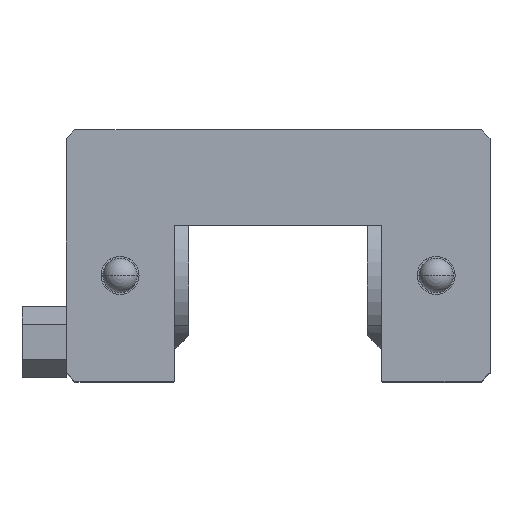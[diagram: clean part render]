
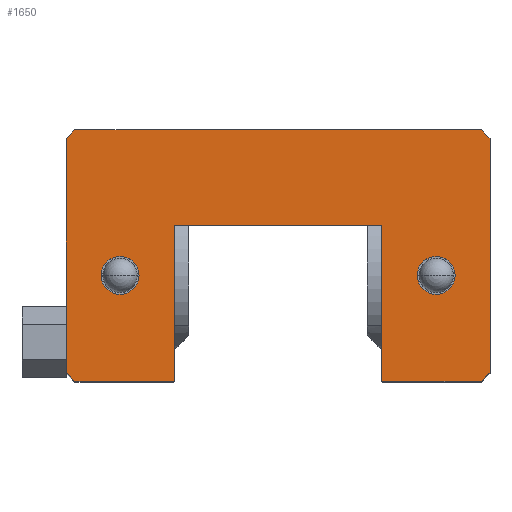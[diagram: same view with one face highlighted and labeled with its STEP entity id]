
A CAD part, top view. The second image highlights one B-rep face of the part: STEP entity #1650.
In plain terms, the highlighted planar face has unit normal (0, 0, 1).
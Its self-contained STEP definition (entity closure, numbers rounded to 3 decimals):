
#1624 = EDGE_CURVE( '', #2166, #3004, #4501, .T. );
#1634 = EDGE_CURVE( '', #2552, #3982, #4512, .T. );
#1650 = ADVANCED_FACE( '', ( #4531, #4532, #4533 ), #4534, .T. );
#1668 = EDGE_CURVE( '', #1718, #1734, #4557, .T. );
#1696 = VERTEX_POINT( '', #4588 );
#1718 = VERTEX_POINT( '', #4613 );
#1734 = VERTEX_POINT( '', #4631 );
#1812 = EDGE_CURVE( '', #2592, #3024, #4713, .T. );
#1874 = EDGE_CURVE( '', #3982, #3174, #4778, .T. );
#2140 = EDGE_CURVE( '', #2746, #1696, #5081, .T. );
#2166 = VERTEX_POINT( '', #5109 );
#2280 = EDGE_CURVE( '', #3456, #2592, #5239, .T. );
#2286 = EDGE_CURVE( '', #1696, #2746, #5246, .T. );
#2422 = EDGE_CURVE( '', #3004, #2542, #5397, .T. );
#2438 = EDGE_CURVE( '', #3014, #3376, #5413, .T. );
#2542 = VERTEX_POINT( '', #5526 );
#2552 = VERTEX_POINT( '', #5536 );
#2592 = VERTEX_POINT( '', #5579 );
#2664 = VERTEX_POINT( '', #5660 );
#2716 = EDGE_CURVE( '', #4264, #2166, #5718, .T. );
#2746 = VERTEX_POINT( '', #5752 );
#2762 = EDGE_CURVE( '', #1734, #1718, #5769, .T. );
#2830 = VERTEX_POINT( '', #5843 );
#2954 = EDGE_CURVE( '', #3376, #4264, #5985, .T. );
#2988 = EDGE_CURVE( '', #2830, #2664, #6023, .T. );
#3004 = VERTEX_POINT( '', #6044 );
#3014 = VERTEX_POINT( '', #6056 );
#3024 = VERTEX_POINT( '', #6066 );
#3174 = VERTEX_POINT( '', #6238 );
#3376 = VERTEX_POINT( '', #6470 );
#3456 = VERTEX_POINT( '', #6561 );
#3748 = EDGE_CURVE( '', #2542, #2830, #6892, .T. );
#3760 = EDGE_CURVE( '', #3174, #3014, #6905, .T. );
#3954 = EDGE_CURVE( '', #2664, #3456, #7120, .T. );
#3982 = VERTEX_POINT( '', #7151 );
#4242 = EDGE_CURVE( '', #3024, #2552, #7444, .T. );
#4264 = VERTEX_POINT( '', #7468 );
#4501 = LINE( '', #7780, #7781 );
#4512 = LINE( '', #7796, #7797 );
#4531 = FACE_BOUND( '', #7824, .T. );
#4532 = FACE_BOUND( '', #7825, .T. );
#4533 = FACE_OUTER_BOUND( '', #7826, .T. );
#4534 = PLANE( '', #7827 );
#4557 = CIRCLE( '', #7851, 2.15 );
#4588 = CARTESIAN_POINT( '', ( -17.9, 21.65, 0. ) );
#4613 = CARTESIAN_POINT( '', ( 17.9, 17.35, 0. ) );
#4631 = CARTESIAN_POINT( '', ( 17.9, 21.65, 0. ) );
#4713 = LINE( '', #8066, #8067 );
#4778 = LINE( '', #8169, #8170 );
#5081 = CIRCLE( '', #8559, 2.15 );
#5109 = CARTESIAN_POINT( '', ( -11.75, 7.6, 0. ) );
#5239 = LINE( '', #8782, #8783 );
#5246 = CIRCLE( '', #8793, 2.15 );
#5397 = LINE( '', #8994, #8995 );
#5413 = LINE( '', #9014, #9015 );
#5526 = CARTESIAN_POINT( '', ( 11.75, 25.2, 0. ) );
#5536 = CARTESIAN_POINT( '', ( 23., 36., 0. ) );
#5579 = CARTESIAN_POINT( '', ( 24., 8.5, 0. ) );
#5660 = CARTESIAN_POINT( '', ( 11.85, 7.5, 0. ) );
#5718 = LINE( '', #9442, #9443 );
#5752 = CARTESIAN_POINT( '', ( -17.9, 17.35, 0. ) );
#5769 = CIRCLE( '', #9509, 2.15 );
#5843 = CARTESIAN_POINT( '', ( 11.75, 7.6, 0. ) );
#5985 = LINE( '', #9802, #9803 );
#6023 = LINE( '', #9850, #9851 );
#6044 = CARTESIAN_POINT( '', ( -11.75, 25.2, 0. ) );
#6056 = CARTESIAN_POINT( '', ( -24., 8.5, 0. ) );
#6066 = CARTESIAN_POINT( '', ( 24., 35., 0. ) );
#6238 = CARTESIAN_POINT( '', ( -24., 35., 0. ) );
#6470 = CARTESIAN_POINT( '', ( -23., 7.5, 0. ) );
#6561 = CARTESIAN_POINT( '', ( 23., 7.5, 0. ) );
#6892 = LINE( '', #11022, #11023 );
#6905 = LINE( '', #11045, #11046 );
#7120 = LINE( '', #11343, #11344 );
#7151 = CARTESIAN_POINT( '', ( -23., 36., 0. ) );
#7444 = LINE( '', #11787, #11788 );
#7468 = CARTESIAN_POINT( '', ( -11.85, 7.5, 0. ) );
#7780 = CARTESIAN_POINT( '', ( -11.75, 7.6, 0. ) );
#7781 = VECTOR( '', #12017, 1. );
#7796 = CARTESIAN_POINT( '', ( 23., 36., 0. ) );
#7797 = VECTOR( '', #12034, 1. );
#7824 = EDGE_LOOP( '', ( #12060, #12061 ) );
#7825 = EDGE_LOOP( '', ( #12062, #12063 ) );
#7826 = EDGE_LOOP( '', ( #12064, #12065, #12066, #12067, #12068, #12069, #12070, #12071, #12072, #12073, #12074, #12075, #12076, #12077 ) );
#7827 = AXIS2_PLACEMENT_3D( '', #12078, #12079, #12080 );
#7851 = AXIS2_PLACEMENT_3D( '', #12121, #12122, #12123 );
#8066 = CARTESIAN_POINT( '', ( 24., 8.5, 0. ) );
#8067 = VECTOR( '', #12265, 1. );
#8169 = CARTESIAN_POINT( '', ( -23., 36., 0. ) );
#8170 = VECTOR( '', #12316, 1. );
#8559 = AXIS2_PLACEMENT_3D( '', #12687, #12688, #12689 );
#8782 = CARTESIAN_POINT( '', ( 23., 7.5, 0. ) );
#8783 = VECTOR( '', #12881, 1. );
#8793 = AXIS2_PLACEMENT_3D( '', #12891, #12892, #12893 );
#8994 = CARTESIAN_POINT( '', ( -11.75, 25.2, 0. ) );
#8995 = VECTOR( '', #13061, 1. );
#9014 = CARTESIAN_POINT( '', ( -24., 8.5, 0. ) );
#9015 = VECTOR( '', #13068, 1. );
#9442 = CARTESIAN_POINT( '', ( -11.85, 7.5, 0. ) );
#9443 = VECTOR( '', #13374, 1. );
#9509 = AXIS2_PLACEMENT_3D( '', #13424, #13425, #13426 );
#9802 = CARTESIAN_POINT( '', ( -23., 7.5, 0. ) );
#9803 = VECTOR( '', #13632, 1. );
#9850 = CARTESIAN_POINT( '', ( 11.75, 7.6, 0. ) );
#9851 = VECTOR( '', #13673, 1. );
#11022 = CARTESIAN_POINT( '', ( 11.75, 25.2, 0. ) );
#11023 = VECTOR( '', #14795, 1. );
#11045 = CARTESIAN_POINT( '', ( -24., 35., 0. ) );
#11046 = VECTOR( '', #14808, 1. );
#11343 = CARTESIAN_POINT( '', ( 11.85, 7.5, 0. ) );
#11344 = VECTOR( '', #15036, 1. );
#11787 = CARTESIAN_POINT( '', ( 24., 35., 0. ) );
#11788 = VECTOR( '', #15408, 1. );
#12017 = DIRECTION( '', ( 0., 1., 0. ) );
#12034 = DIRECTION( '', ( -1., 0., 0. ) );
#12060 = ORIENTED_EDGE( '', *, *, #2762, .T. );
#12061 = ORIENTED_EDGE( '', *, *, #1668, .T. );
#12062 = ORIENTED_EDGE( '', *, *, #2286, .T. );
#12063 = ORIENTED_EDGE( '', *, *, #2140, .T. );
#12064 = ORIENTED_EDGE( '', *, *, #3760, .T. );
#12065 = ORIENTED_EDGE( '', *, *, #2438, .T. );
#12066 = ORIENTED_EDGE( '', *, *, #2954, .T. );
#12067 = ORIENTED_EDGE( '', *, *, #2716, .T. );
#12068 = ORIENTED_EDGE( '', *, *, #1624, .T. );
#12069 = ORIENTED_EDGE( '', *, *, #2422, .T. );
#12070 = ORIENTED_EDGE( '', *, *, #3748, .T. );
#12071 = ORIENTED_EDGE( '', *, *, #2988, .T. );
#12072 = ORIENTED_EDGE( '', *, *, #3954, .T. );
#12073 = ORIENTED_EDGE( '', *, *, #2280, .T. );
#12074 = ORIENTED_EDGE( '', *, *, #1812, .T. );
#12075 = ORIENTED_EDGE( '', *, *, #4242, .T. );
#12076 = ORIENTED_EDGE( '', *, *, #1634, .T. );
#12077 = ORIENTED_EDGE( '', *, *, #1874, .T. );
#12078 = CARTESIAN_POINT( '', ( 0., 0., 0. ) );
#12079 = DIRECTION( '', ( 0., 0., 1. ) );
#12080 = DIRECTION( '', ( 1., 0., 0. ) );
#12121 = CARTESIAN_POINT( '', ( 17.9, 19.5, 0. ) );
#12122 = DIRECTION( '', ( 0., 0., -1. ) );
#12123 = DIRECTION( '', ( 0., -1., 0. ) );
#12265 = DIRECTION( '', ( 0., 1., 0. ) );
#12316 = DIRECTION( '', ( -0.707, -0.707, 0. ) );
#12687 = CARTESIAN_POINT( '', ( -17.9, 19.5, 0. ) );
#12688 = DIRECTION( '', ( 0., 0., -1. ) );
#12689 = DIRECTION( '', ( 0., -1., 0. ) );
#12881 = DIRECTION( '', ( 0.707, 0.707, 0. ) );
#12891 = CARTESIAN_POINT( '', ( -17.9, 19.5, 0. ) );
#12892 = DIRECTION( '', ( 0., 0., -1. ) );
#12893 = DIRECTION( '', ( 0., -1., 0. ) );
#13061 = DIRECTION( '', ( 1., 0., 0. ) );
#13068 = DIRECTION( '', ( 0.707, -0.707, 0. ) );
#13374 = DIRECTION( '', ( 0.707, 0.707, 0. ) );
#13424 = CARTESIAN_POINT( '', ( 17.9, 19.5, 0. ) );
#13425 = DIRECTION( '', ( 0., 0., -1. ) );
#13426 = DIRECTION( '', ( 0., -1., 0. ) );
#13632 = DIRECTION( '', ( 1., 0., 0. ) );
#13673 = DIRECTION( '', ( 0.707, -0.707, 0. ) );
#14795 = DIRECTION( '', ( 0., -1., 0. ) );
#14808 = DIRECTION( '', ( 0., -1., 0. ) );
#15036 = DIRECTION( '', ( 1., 0., 0. ) );
#15408 = DIRECTION( '', ( -0.707, 0.707, 0. ) );
